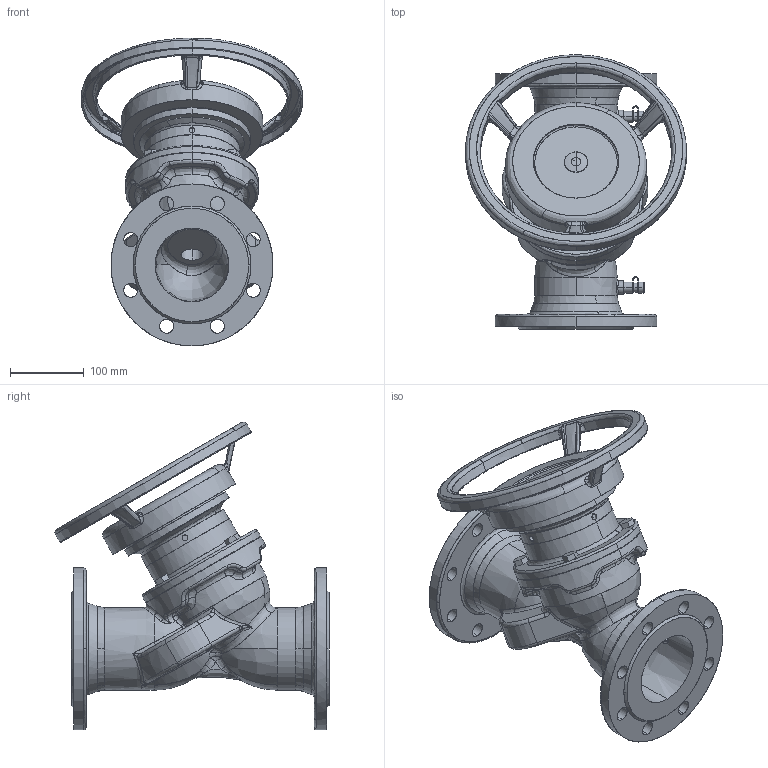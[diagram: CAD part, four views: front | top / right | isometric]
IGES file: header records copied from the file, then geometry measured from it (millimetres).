
Start section: SolidWorks IGES file using analytic representation for surfaces
Global section: file name: C:\Users\Administrator\Desktop\temp\RC4240-DN100.IGS; native system: SolidWorks 2015; preprocessor: SolidWorks 2015; author: Administrator; date: 170423.165032; units: millimetre
Bounding box: 299.87 x 372.29 x 418.14 mm (x, y, z)
Surface area: 885622 mm2 (no closed solid volume)
Topology: 0 solids, 0 shells, 727 faces, 12553 edges, 12533 vertices
Faces by surface type: bspline 464, revolution 263
